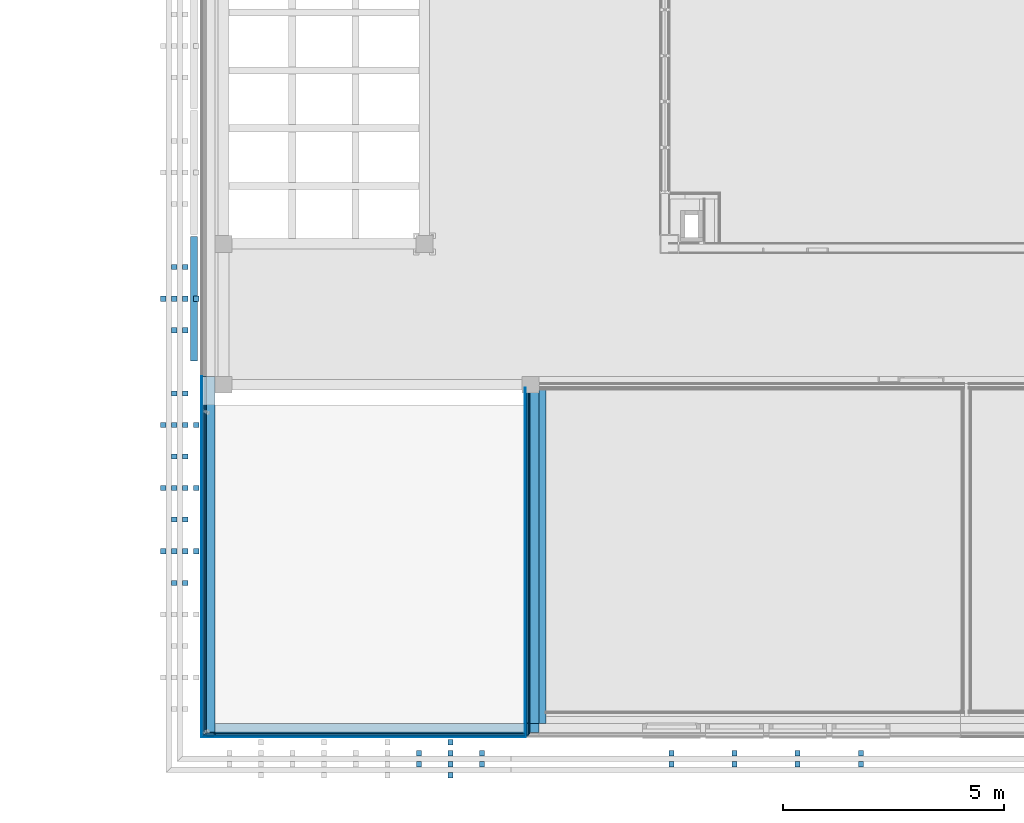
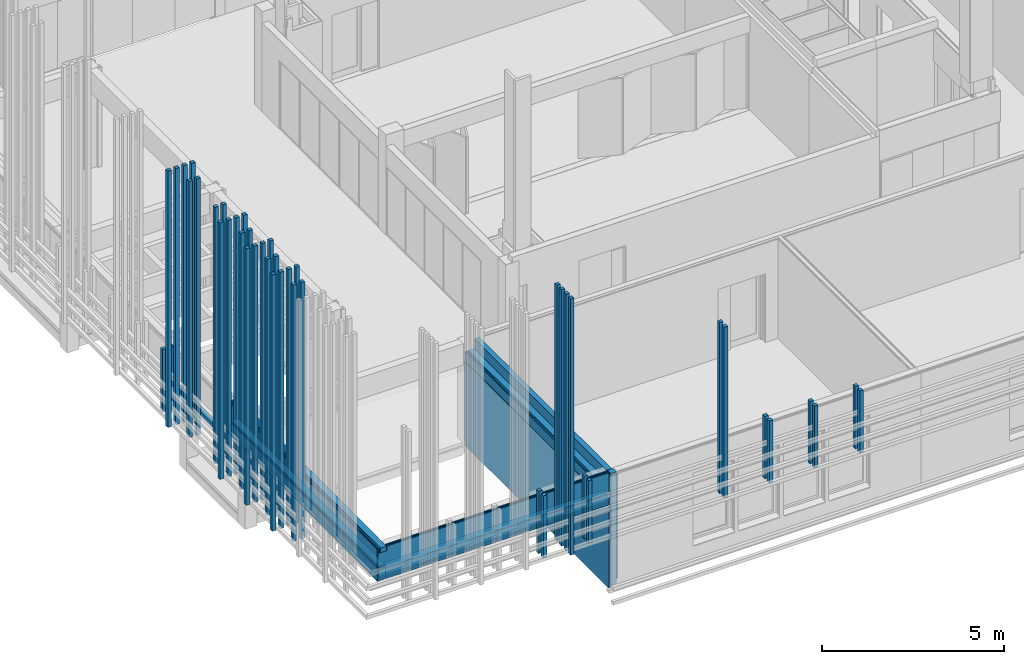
# One storey, part 71 of 139: 21 building element parts, 18 discrete accessories, 3 elements without a shape of their own.
"""IFC2X3 building model written with IfcOpenShell, lengths in millimetres."""

import ifcopenshell
import ifcopenshell.guid

model = None  # the IFC model being written
_history = None  # IfcOwnerHistory: only IFC2X3 demands one
_inside = {}  # id of a spatial element -> (the spatial element, [elements in it])
_under = {}  # id of a project, library or spatial element -> (it, [spatial elements below it])
_declared = {}  # id of a project -> (the project, [libraries it declares])
_typed = {}  # id of a type object -> (the type object, [elements of that type])
_made_of = {}  # id of a material, layer set ... -> (it, [elements and type objects made of it])


def new_model(schema):
    """Start an empty IFC model of exactly this schema.

    Asked for "IFC4X3", IfcOpenShell would pick the latest addendum, in which some entities
    have other attributes; the version numbers below select the first issue.
    IFC2X3 requires an IfcOwnerHistory on every rooted entity: one is made here for all.
    """
    global model, _history
    if schema == "IFC4X3":
        model = ifcopenshell.file(schema_version=(4, 3, 0, 0))
    else:
        model = ifcopenshell.file(schema=schema)
    _inside.clear()
    _under.clear()
    _declared.clear()
    _typed.clear()
    _made_of.clear()
    _history = None
    if model.schema == "IFC2X3":
        org = make("IfcOrganization", Name="unknown")
        user = make(
            "IfcPersonAndOrganization",
            ThePerson=make("IfcPerson", FamilyName="unknown"),
            TheOrganization=org,
        )
        app = make(
            "IfcApplication",
            ApplicationDeveloper=org,
            Version="unknown",
            ApplicationFullName="unknown",
            ApplicationIdentifier="unknown",
        )
        _history = make(
            "IfcOwnerHistory",
            OwningUser=user,
            OwningApplication=app,
            ChangeAction="ADDED",
            CreationDate=0,
        )
    return model


def make(cls, **values):
    """One entity of the class cls with the attributes given. An attribute that is None is left unset."""
    return model.create_entity(
        cls, **{name: value for name, value in values.items() if value is not None}
    )


def entity(cls, *values):
    """Any entity or typed value of the class cls, its attributes in the order of the schema. None: left unset."""
    e = model.create_entity(cls)
    for i, value in enumerate(values):
        if value is not None:
            e[i] = value
    return e


def rooted(cls, **values):
    """An entity with a GlobalId (a new one), such as an element, a storey or a relation."""
    return make(cls, GlobalId=ifcopenshell.guid.new(), OwnerHistory=_history, **values)


def si_unit(unit_type, name, prefix=None):
    """IfcSIUnit, for example si_unit("LENGTHUNIT", "METRE", prefix="MILLI")."""
    return make("IfcSIUnit", UnitType=unit_type, Prefix=prefix, Name=name)


def converted_unit(unit_type, name, factor, base, dimensions=None, offset=None):
    """IfcConversionBasedUnit, such as the inch: factor (a typed value) times the base unit."""
    return make(
        "IfcConversionBasedUnit"
        if offset is None
        else "IfcConversionBasedUnitWithOffset",
        ConversionOffset=offset,
        Dimensions=None
        if dimensions is None
        else entity("IfcDimensionalExponents", *dimensions),
        UnitType=unit_type,
        Name=name,
        ConversionFactor=make(
            "IfcMeasureWithUnit", ValueComponent=factor, UnitComponent=base
        ),
    )


def derived_unit(unit_type, elements):
    """IfcDerivedUnit: a product of units, each with its exponent."""
    return make(
        "IfcDerivedUnit",
        Elements=[
            make("IfcDerivedUnitElement", Unit=unit, Exponent=power)
            for unit, power in elements
        ],
        UnitType=unit_type,
    )


def money_unit(currency):
    """IfcMonetaryUnit."""
    return make("IfcMonetaryUnit", Currency=currency)


def assignment(units):
    """IfcUnitAssignment: the units of a project."""
    return None if units is None else make("IfcUnitAssignment", Units=units)


def point(xyz):
    """IfcCartesianPoint."""
    return None if xyz is None else make("IfcCartesianPoint", Coordinates=xyz)


def direction(xyz):
    """IfcDirection."""
    return None if xyz is None else make("IfcDirection", DirectionRatios=xyz)


def frame(location, z_axis=None, x_axis=None):
    """IfcAxis2Placement3D, a coordinate frame: its origin and axes. An axis left out is left unset."""
    return make(
        "IfcAxis2Placement3D",
        Location=point(location),
        Axis=direction(z_axis),
        RefDirection=direction(x_axis),
    )


def origin_with_axes():
    """The frame at (0, 0, 0) with the z axis (0, 0, 1) and the x axis (1, 0, 0) written out."""
    return frame((0.0, 0.0, 0.0), z_axis=(0.0, 0.0, 1.0), x_axis=(1.0, 0.0, 0.0))


def place(relative_to, where):
    """IfcLocalPlacement: puts the frame where relative to a parent placement (None: the world)."""
    return make(
        "IfcLocalPlacement", PlacementRelTo=relative_to, RelativePlacement=where
    )


def context(
    kind, dimensions, precision=None, world=None, true_north=None, identifier=None
):
    """IfcGeometricRepresentationContext, for example the 3D "Model" context."""
    return make(
        "IfcGeometricRepresentationContext",
        ContextIdentifier=identifier,
        ContextType=kind,
        CoordinateSpaceDimension=dimensions,
        Precision=precision,
        WorldCoordinateSystem=world,
        TrueNorth=true_north,
    )


def subcontext(parent, identifier, kind, view, scale=None):
    """IfcGeometricRepresentationSubContext, for example "Body" below "Model"."""
    return make(
        "IfcGeometricRepresentationSubContext",
        ContextIdentifier=identifier,
        ContextType=kind,
        ParentContext=parent,
        TargetScale=scale,
        TargetView=view,
    )


def project(units=None, contexts=None):
    """IfcProject with its units and contexts."""
    return rooted(
        "IfcProject",
        Name="project",
        RepresentationContexts=contexts,
        UnitsInContext=assignment(units),
    )


def spatial(cls, under=None, at=None, **own):
    """A site, building, storey or space (cls), placed at a placement, below another one or the project."""
    s = rooted(cls, ObjectPlacement=at, **own)
    if under is not None:
        _under.setdefault(under.id(), (under, []))[1].append(s)
    return s


def faces_of(points, faces, orient=None, outer=None):
    """IfcFace entities. A face is a list of loops; a loop is a list of indices into points, from 0.

    orient and outer hold one flag for each loop. By default every Orientation is true, the
    first loop of a face is its IfcFaceOuterBound and the others are IfcFaceBound.
    """
    made = []
    for i, loops in enumerate(faces):
        bounds = []
        for j, loop in enumerate(loops):
            is_outer = j == 0 if outer is None else outer[i][j]
            bounds.append(
                make(
                    "IfcFaceOuterBound" if is_outer else "IfcFaceBound",
                    Bound=make("IfcPolyLoop", Polygon=[points[k] for k in loop]),
                    Orientation=True if orient is None else orient[i][j],
                )
            )
        made.append(make("IfcFace", Bounds=bounds))
    return made


def faceted_brep(points, faces, orient=None, outer=None, voids=None):
    """IfcFacetedBrep: a solid bounded by flat faces; with voids (closed shells), ...WithVoids."""
    shared = [point(p) for p in points]
    hull = make("IfcClosedShell", CfsFaces=faces_of(shared, faces, orient, outer))
    if voids is None:
        return make("IfcFacetedBrep", Outer=hull)
    return make(
        "IfcFacetedBrepWithVoids",
        Outer=hull,
        Voids=[
            make(cls, CfsFaces=faces_of(shared, fs, o, b)) for cls, fs, o, b in voids
        ],
    )


def shape(context_of_items, identifier, shape_type, items):
    """IfcShapeRepresentation: the items that make up one representation, for example the "Body"."""
    return make(
        "IfcShapeRepresentation",
        ContextOfItems=context_of_items,
        RepresentationIdentifier=identifier,
        RepresentationType=shape_type,
        Items=items,
    )


def material(Name=None, Category=None):
    """IfcMaterial."""
    return make("IfcMaterial", Name=Name, Category=Category)


def material_list(materials):
    """IfcMaterialList."""
    return make("IfcMaterialList", Materials=materials)


def made_of(thing, what):
    """Note that an element or type object is made of a material, layer set ...; save() writes the relation."""
    if what is not None:
        _made_of.setdefault(what.id(), (what, []))[1].append(thing)
    return thing


def type_object(cls, material=None, **own):
    """A type object (cls), such as IfcWallType, which elements share."""
    return made_of(rooted(cls, **own), material)


def element(
    cls,
    number,
    at=None,
    inside=None,
    cuts=None,
    type_object=None,
    material=None,
    context=None,
    identifier="Body",
    shape_type=None,
    held_by="IfcProductDefinitionShape",
    body=None,
    shapes=None,
    **own,
):
    """One element of the class cls, such as IfcWall. Its Tag is "e" and its number.

    at: its placement. inside: the storey or other place that contains it. cuts: it is an
    opening in that element (IfcRelVoidsElement). A single representation is given by context,
    identifier, shape_type and body (its items); several are given by shapes. held_by: the class
    of the entity that holds the representations. save() writes the other relations.
    """
    e = rooted(cls, Tag="e%d" % number, ObjectPlacement=at, **own)
    if body is not None:
        shapes = [shape(context, identifier, shape_type, body)]
    if shapes is not None:
        e.Representation = make(held_by, Representations=shapes)
    if inside is not None:
        _inside.setdefault(inside.id(), (inside, []))[1].append(e)
    if cuts is not None:
        rooted(
            "IfcRelVoidsElement", RelatingBuildingElement=cuts, RelatedOpeningElement=e
        )
    if type_object is not None:
        _typed.setdefault(type_object.id(), (type_object, []))[1].append(e)
    return made_of(e, material)


def aggregate(whole, parts):
    """IfcRelAggregates: a whole, such as a stair, and the parts it consists of."""
    return rooted("IfcRelAggregates", RelatingObject=whole, RelatedObjects=parts)


def save(model, path):
    """Write the relations noted so far, then the file.

    IfcRelAggregates (storeys below a building ...), IfcRelContainedInSpatialStructure (elements
    in a storey), IfcRelDefinesByType, IfcRelAssociatesMaterial and IfcRelDeclares: one each for
    every whole, place, type object, material and project.
    """
    for whole, parts in _under.values():
        aggregate(whole, parts)
    for where, things in _inside.values():
        rooted(
            "IfcRelContainedInSpatialStructure",
            RelatedElements=things,
            RelatingStructure=where,
        )
    for kind, things in _typed.values():
        rooted("IfcRelDefinesByType", RelatedObjects=things, RelatingType=kind)
    for what, things in _made_of.values():
        rooted("IfcRelAssociatesMaterial", RelatedObjects=things, RelatingMaterial=what)
    for by, libraries in _declared.values():
        rooted("IfcRelDeclares", RelatingContext=by, RelatedDefinitions=libraries)
    model.write(path)


model = new_model("IFC2X3")

# Units and contexts
model_context = context("Model", 3, precision=0.01, world=origin_with_axes(), true_north=direction((0.0, 1.0)))
body_context = subcontext(model_context, "Body", "Model", "MODEL_VIEW")
ifc_project = project(units=[si_unit("LENGTHUNIT", "METRE", prefix="MILLI"), si_unit("AREAUNIT", "SQUARE_METRE"), si_unit("VOLUMEUNIT", "CUBIC_METRE"), converted_unit("PLANEANGLEUNIT", "DEGREE", entity("IfcPlaneAngleMeasure", 0.0174532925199), si_unit("PLANEANGLEUNIT", "RADIAN"), dimensions=[0, 0, 0, 0, 0, 0, 0]), money_unit("EUR"), converted_unit("TIMEUNIT", "Year", entity("IfcTimeMeasure", 31556926.0), si_unit("TIMEUNIT", "SECOND"), dimensions=[0, 0, 1, 0, 0, 0, 0]), si_unit("MASSUNIT", "GRAM", prefix="KILO"), si_unit("THERMODYNAMICTEMPERATUREUNIT", "DEGREE_CELSIUS"), si_unit("LUMINOUSINTENSITYUNIT", "LUMEN"), si_unit("ENERGYUNIT", "JOULE", prefix="MEGA"), derived_unit("THERMALCONDUCTANCEUNIT", [(si_unit("POWERUNIT", "WATT"), 1), (si_unit("LENGTHUNIT", "METRE"), -1), (si_unit("THERMODYNAMICTEMPERATUREUNIT", "KELVIN"), -1)]), derived_unit("SPECIFICHEATCAPACITYUNIT", [(si_unit("ENERGYUNIT", "JOULE"), 1), (si_unit("MASSUNIT", "GRAM", prefix="KILO"), -1), (si_unit("THERMODYNAMICTEMPERATUREUNIT", "KELVIN"), -1)]), derived_unit("MASSDENSITYUNIT", [(si_unit("MASSUNIT", "GRAM", prefix="KILO"), 1), (si_unit("VOLUMEUNIT", "CUBIC_METRE"), -1)])], contexts=[model_context])

# Site, building, storey
site_placement = place(None, origin_with_axes())
site = spatial("IfcSite", under=ifc_project, at=site_placement, Name="Kolde pst 67a", CompositionType="ELEMENT")
building_placement = place(site_placement, origin_with_axes())
building = spatial("IfcBuilding", under=site, at=building_placement, Name="Riigigümnaasium", CompositionType="ELEMENT")
storey_placement = place(building_placement, frame((0.0, 0.0, 4600.0), z_axis=(0.0, 0.0, 1.0), x_axis=(1.0, 0.0, 0.0)))
storey = spatial("IfcBuildingStorey", under=building, at=storey_placement, Name="2. korrus", CompositionType="ELEMENT", Elevation=4600.0)

# Discrete accessories
ifc_material_1 = material(Name="_VÄLISVIIMISTLUS - sõrmjätkatud puitprussid 120x115mm, liitekohad vähemärgatavad, Platowood sõrmjätkatud kuusk või samaväärne; eeltöödeldud tuletõkkevõõbaga, tuletundlikkus B-s1, d0, Woodsafe Exterior WFX™ või samaväärne; kinnitused vastavalt EK osale")
ifc_material_list_1 = material_list([ifc_material_1, ifc_material_1, ifc_material_1, ifc_material_1])
discrete_accessory_type_1 = type_object("IfcDiscreteAccessoryType", Name="120 4-ne vertikaalne 870 x 115")
discrete_accessory_1_placement = place(storey_placement, frame((53382.5232021, -312.0, 2150.0), z_axis=(0.0, 0.0, 1.0), x_axis=(0.0, -1.0, 0.0)))
element("IfcDiscreteAccessory", 1, at=discrete_accessory_1_placement, inside=storey, type_object=discrete_accessory_type_1, material=ifc_material_list_1, Name="Päikesevarjestus", context=body_context, shape_type="Brep", body=[
    faceted_brep([(133.0, 45.0, 0.0), (13.0, 45.0, 0.0), (13.0, 45.0, 8580.0), (133.0, 45.0, 8580.0), (133.0, -70.0, 0.0), (13.0, -70.0, 0.0), (13.0, -70.0, 8580.0), (133.0, -70.0, 8580.0)], [[[0, 1, 2, 3]], [[0, 4, 5, 1]], [[1, 5, 6, 2]], [[3, 2, 6, 7]], [[4, 0, 3, 7]], [[5, 4, 7, 6]]]),
    faceted_brep([(383.0, 45.0, 0.0), (263.0, 45.0, 0.0), (263.0, 45.0, 8580.0), (383.0, 45.0, 8580.0), (383.0, -70.0, 0.0), (263.0, -70.0, 0.0), (263.0, -70.0, 8580.0), (383.0, -70.0, 8580.0)], [[[0, 1, 2, 3]], [[0, 4, 5, 1]], [[1, 5, 6, 2]], [[3, 2, 6, 7]], [[4, 0, 3, 7]], [[5, 4, 7, 6]]]),
    faceted_brep([(633.0, 45.0, 0.0), (513.0, 45.0, 0.0), (513.0, 45.0, 8580.0), (633.0, 45.0, 8580.0), (633.0, -70.0, 0.0), (513.0, -70.0, 0.0), (513.0, -70.0, 8580.0), (633.0, -70.0, 8580.0)], [[[0, 1, 2, 3]], [[0, 4, 5, 1]], [[1, 5, 6, 2]], [[3, 2, 6, 7]], [[4, 0, 3, 7]], [[5, 4, 7, 6]]]),
    faceted_brep([(883.0, 45.0, 0.0), (763.0, 45.0, 0.0), (763.0, 45.0, 8580.0), (883.0, 45.0, 8580.0), (883.0, -70.0, 0.0), (763.0, -70.0, 0.0), (763.0, -70.0, 8580.0), (883.0, -70.0, 8580.0)], [[[0, 1, 2, 3]], [[0, 4, 5, 1]], [[1, 5, 6, 2]], [[3, 2, 6, 7]], [[4, 0, 3, 7]], [[5, 4, 7, 6]]]),
])
discrete_accessory_2_placement = place(storey_placement, frame((47687.9900449, 9646.95998846, 2150.0), z_axis=(0.0, 0.0, 1.0), x_axis=(-0.999999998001, -6.32316306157e-05, 0.0)))
element("IfcDiscreteAccessory", 2, at=discrete_accessory_2_placement, inside=storey, type_object=discrete_accessory_type_1, material=ifc_material_list_1, Name="Päikesevarjestus", context=body_context, shape_type="Brep", body=[
    faceted_brep([(47.9927283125, -70.0, 0.0), (47.9927283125, -70.0, 519.999664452), (47.9927283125, -70.0, 669.999664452), (133.0, -70.0, 669.999664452), (133.0, -70.0, 8580.0), (13.0, -70.0, 8580.0), (13.0, -70.0, 0.0), (47.99999995, 45.0, 519.999664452), (47.99999995, 45.0, 0.0), (47.99999995, 45.0, 669.999664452), (133.0, 45.0, 669.999664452), (133.0, 45.0, 8580.0), (13.0, 45.0, 8580.0), (13.0, 45.0, 0.0)], [[[0, 1, 2, 3, 4, 5, 6]], [[7, 1, 0, 8]], [[1, 7, 9, 2]], [[10, 3, 2, 9]], [[4, 3, 10, 11]], [[5, 4, 11, 12]], [[5, 12, 13, 6]], [[8, 0, 6, 13]], [[7, 8, 13, 12, 11, 10, 9]]]),
    faceted_brep([(383.0, 45.0, 0.0), (263.0, 45.0, 0.0), (263.0, 45.0, 8580.0), (383.0, 45.0, 8580.0), (383.0, -70.0, 0.0), (263.0, -70.0, 0.0), (263.0, -70.0, 8580.0), (383.0, -70.0, 8580.0)], [[[0, 1, 2, 3]], [[0, 4, 5, 1]], [[1, 5, 6, 2]], [[3, 2, 6, 7]], [[4, 0, 3, 7]], [[5, 4, 7, 6]]]),
    faceted_brep([(633.0, 45.0, 0.0), (513.0, 45.0, 0.0), (513.0, 45.0, 8580.0), (633.0, 45.0, 8580.0), (633.0, -70.0, 0.0), (513.0, -70.0, 0.0), (513.0, -70.0, 8580.0), (633.0, -70.0, 8580.0)], [[[0, 1, 2, 3]], [[0, 4, 5, 1]], [[1, 5, 6, 2]], [[3, 2, 6, 7]], [[4, 0, 3, 7]], [[5, 4, 7, 6]]]),
    faceted_brep([(883.0, 45.0, 0.0), (763.0, 45.0, 0.0), (763.0, 45.0, 8580.0), (883.0, 45.0, 8580.0), (883.0, -70.0, 0.0), (763.0, -70.0, 0.0), (763.0, -70.0, 8580.0), (883.0, -70.0, 8580.0)], [[[0, 1, 2, 3]], [[0, 4, 5, 1]], [[1, 5, 6, 2]], [[3, 2, 6, 7]], [[4, 0, 3, 7]], [[5, 4, 7, 6]]]),
])
for number, where, z_axis, x_axis in (
    (3, (47687.9900449, 3927.45041161, 2150.0), (0.0, 0.0, 1.0), (-0.999999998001, -6.3231630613e-05, 0.0)),
    (4, (47687.9824571, 5357.45041124, 2150.0), (0.0, 0.0, 1.0), (-0.999999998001, -6.3231630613e-05, 0.0)),
    (5, (47687.9900449, 6787.45041163, 2150.0), (0.0, 0.0, 1.0), (-0.999999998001, -6.3231630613e-05, 0.0)),
):
    element("IfcDiscreteAccessory", number, at=place(storey_placement, frame(where, z_axis=z_axis, x_axis=x_axis)), inside=storey, type_object=discrete_accessory_type_1, material=ifc_material_list_1, Name="Päikesevarjestus", context=body_context, shape_type="Brep", body=[
        faceted_brep([(133.0, 45.0, 0.0), (13.0, 45.0, 0.0), (13.0, 45.0, 8580.0), (133.0, 45.0, 8580.0), (133.0, -70.0, 0.0), (13.0, -70.0, 0.0), (13.0, -70.0, 8580.0), (133.0, -70.0, 8580.0)], [[[0, 1, 2, 3]], [[0, 4, 5, 1]], [[1, 5, 6, 2]], [[3, 2, 6, 7]], [[4, 0, 3, 7]], [[5, 4, 7, 6]]]),
        faceted_brep([(383.0, 45.0, 0.0), (263.0, 45.0, 0.0), (263.0, 45.0, 8580.0), (383.0, 45.0, 8580.0), (383.0, -70.0, 0.0), (263.0, -70.0, 0.0), (263.0, -70.0, 8580.0), (383.0, -70.0, 8580.0)], [[[0, 1, 2, 3]], [[0, 4, 5, 1]], [[1, 5, 6, 2]], [[3, 2, 6, 7]], [[4, 0, 3, 7]], [[5, 4, 7, 6]]]),
        faceted_brep([(633.0, 45.0, 0.0), (513.0, 45.0, 0.0), (513.0, 45.0, 8580.0), (633.0, 45.0, 8580.0), (633.0, -70.0, 0.0), (513.0, -70.0, 0.0), (513.0, -70.0, 8580.0), (633.0, -70.0, 8580.0)], [[[0, 1, 2, 3]], [[0, 4, 5, 1]], [[1, 5, 6, 2]], [[3, 2, 6, 7]], [[4, 0, 3, 7]], [[5, 4, 7, 6]]]),
        faceted_brep([(883.0, 45.0, 0.0), (763.0, 45.0, 0.0), (763.0, 45.0, 8580.0), (883.0, 45.0, 8580.0), (883.0, -70.0, 0.0), (763.0, -70.0, 0.0), (763.0, -70.0, 8580.0), (883.0, -70.0, 8580.0)], [[[0, 1, 2, 3]], [[0, 4, 5, 1]], [[1, 5, 6, 2]], [[3, 2, 6, 7]], [[4, 0, 3, 7]], [[5, 4, 7, 6]]]),
    ])
ifc_material_list_2 = material_list([ifc_material_1, ifc_material_1])
discrete_accessory_type_2 = type_object("IfcDiscreteAccessoryType", Name="1+paiksekaitse 3 370 x 115")
discrete_accessory_3_placement = place(storey_placement, frame((58434.1149581, -1292.00777448, 2150.0), z_axis=(0.0, 0.0, 1.0), x_axis=(0.0, 1.0, 0.0)))
element("IfcDiscreteAccessory", 6, at=discrete_accessory_3_placement, inside=storey, type_object=discrete_accessory_type_2, material=ifc_material_list_2, Name="Päikesevarjestus", context=body_context, shape_type="Brep", body=[
    faceted_brep([(467.0, 117.5, 0.0), (347.0, 117.5, 0.0), (347.0, 117.5, 5727.5), (467.0, 117.5, 5727.5), (467.0, 2.5, 0.0), (347.0, 2.5, 0.0), (347.0, 2.5, 5727.5), (467.0, 2.5, 5727.5)], [[[0, 1, 2, 3]], [[0, 4, 5, 1]], [[1, 5, 6, 2]], [[3, 2, 6, 7]], [[4, 0, 3, 7]], [[5, 4, 7, 6]]]),
    faceted_brep([(717.0, 117.5, 0.0), (597.0, 117.5, 0.0), (597.0, 117.5, 5727.5), (717.0, 117.5, 5727.5), (717.0, 2.5, 0.0), (597.0, 2.5, 0.0), (597.0, 2.5, 5727.5), (717.0, 2.5, 5727.5)], [[[0, 1, 2, 3]], [[0, 4, 5, 1]], [[1, 5, 6, 2]], [[3, 2, 6, 7]], [[4, 0, 3, 7]], [[5, 4, 7, 6]]]),
])
for number, where, z_axis, x_axis in (
    (7, (59864.1377201, -1292.00007473, 2150.0), (0.0, 0.0, 1.0), (0.0, 1.0, 0.0)),
    (8, (54145.0231995, -1292.00007473, 2150.0), (0.0, 0.0, 1.0), (0.0, 1.0, 0.0)),
    (9, (61294.1376763, -1292.00007473, 2150.0), (0.0, 0.0, 1.0), (0.0, 1.0, 0.0)),
    (10, (62725.0447932, -1292.00800125, 2150.0), (0.0, 0.0, 1.0), (0.0, 1.0, 0.0)),
    (11, (52715.0232497, -1292.00007473, 2150.0), (0.0, 0.0, 1.0), (0.0, 1.0, 0.0)),
):
    element("IfcDiscreteAccessory", number, at=place(storey_placement, frame(where, z_axis=z_axis, x_axis=x_axis)), inside=storey, type_object=discrete_accessory_type_2, material=ifc_material_list_2, Name="Päikesevarjestus", context=body_context, shape_type="Brep", body=[
        faceted_brep([(467.0, 117.5, 0.0), (347.0, 117.5, 0.0), (347.0, 117.5, 2090.0), (467.0, 117.5, 2090.0), (467.0, 2.5, 0.0), (347.0, 2.5, 0.0), (347.0, 2.5, 2090.0), (467.0, 2.5, 2090.0)], [[[0, 1, 2, 3]], [[0, 4, 5, 1]], [[1, 5, 6, 2]], [[3, 2, 6, 7]], [[4, 0, 3, 7]], [[5, 4, 7, 6]]]),
        faceted_brep([(717.0, 117.5, 0.0), (597.0, 117.5, 0.0), (597.0, 117.5, 2090.0), (717.0, 117.5, 2090.0), (717.0, 2.5, 0.0), (597.0, 2.5, 0.0), (597.0, 2.5, 2090.0), (717.0, 2.5, 2090.0)], [[[0, 1, 2, 3]], [[0, 4, 5, 1]], [[1, 5, 6, 2]], [[3, 2, 6, 7]], [[4, 0, 3, 7]], [[5, 4, 7, 6]]]),
    ])
for number, where, z_axis, x_axis in (
    (12, (46707.9854612, 7454.91924005, 2150.0), (0.0, 0.0, 1.0), (1.0, 0.0, 0.0)),
    (13, (46707.9854612, 6024.91924005, 2150.0), (0.0, 0.0, 1.0), (1.0, 0.0, 0.0)),
    (14, (46707.9854612, 4594.91924005, 2150.0), (0.0, 0.0, 1.0), (1.0, 0.0, 0.0)),
    (15, (46707.9854612, 3164.91924005, 2150.0), (0.0, 0.0, 1.0), (1.0, 0.0, 0.0)),
):
    element("IfcDiscreteAccessory", number, at=place(storey_placement, frame(where, z_axis=z_axis, x_axis=x_axis)), inside=storey, type_object=discrete_accessory_type_2, material=ifc_material_list_2, Name="Päikesevarjestus", context=body_context, shape_type="Brep", body=[
        faceted_brep([(467.0, 117.5, 0.0), (347.0, 117.5, 0.0), (347.0, 117.5, 8580.0), (467.0, 117.5, 8580.0), (467.0, 2.5, 0.0), (347.0, 2.5, 0.0), (347.0, 2.5, 8580.0), (467.0, 2.5, 8580.0)], [[[0, 1, 2, 3]], [[0, 4, 5, 1]], [[1, 5, 6, 2]], [[3, 2, 6, 7]], [[4, 0, 3, 7]], [[5, 4, 7, 6]]]),
        faceted_brep([(717.0, 117.5, 0.0), (597.0, 117.5, 0.0), (597.0, 117.5, 8580.0), (717.0, 117.5, 8580.0), (717.0, 2.5, 0.0), (597.0, 2.5, 0.0), (597.0, 2.5, 8580.0), (717.0, 2.5, 8580.0)], [[[0, 1, 2, 3]], [[0, 4, 5, 1]], [[1, 5, 6, 2]], [[3, 2, 6, 7]], [[4, 0, 3, 7]], [[5, 4, 7, 6]]]),
    ])
discrete_accessory_4_placement = place(storey_placement, frame((46707.9854612, 10314.9192401, 2150.0), z_axis=(0.0, 0.0, 1.0), x_axis=(1.0, 0.0, 0.0)))
element("IfcDiscreteAccessory", 16, at=discrete_accessory_4_placement, inside=storey, type_object=discrete_accessory_type_2, material=ifc_material_list_2, Name="Päikesevarjestus", context=body_context, shape_type="Brep", body=[
    faceted_brep([(467.0, 117.5, 0.0), (347.0, 117.5, 0.0), (347.0, 117.5, 2090.0), (467.0, 117.5, 2090.0), (467.0, 2.5, 0.0), (347.0, 2.5, 0.0), (347.0, 2.5, 2090.0), (467.0, 2.5, 2090.0)], [[[0, 1, 2, 3]], [[0, 4, 5, 1]], [[1, 5, 6, 2]], [[3, 2, 6, 7]], [[4, 0, 3, 7]], [[5, 4, 7, 6]]]),
    faceted_brep([(717.0, 117.5, 0.0), (597.0, 117.5, 0.0), (597.0, 117.5, 2090.0), (717.0, 117.5, 2090.0), (717.0, 2.5, 0.0), (597.0, 2.5, 0.0), (597.0, 2.5, 2090.0), (717.0, 2.5, 2090.0)], [[[0, 1, 2, 3]], [[0, 4, 5, 1]], [[1, 5, 6, 2]], [[3, 2, 6, 7]], [[4, 0, 3, 7]], [[5, 4, 7, 6]]]),
])
discrete_accessory_5_placement = place(storey_placement, frame((46707.9854612, 8884.91924005, 2150.0), z_axis=(0.0, 0.0, 1.0), x_axis=(1.0, 0.0, 0.0)))
element("IfcDiscreteAccessory", 17, at=discrete_accessory_5_placement, inside=storey, type_object=discrete_accessory_type_2, material=ifc_material_list_2, Name="Päikesevarjestus", context=body_context, shape_type="Brep", body=[
    faceted_brep([(467.0, 117.5, 0.0), (347.0, 117.5, 0.0), (347.0, 117.5, 8580.0), (467.0, 117.5, 8580.0), (467.0, 2.5, 0.0), (347.0, 2.5, 0.0), (347.0, 2.5, 8580.0), (467.0, 2.5, 8580.0)], [[[0, 1, 2, 3]], [[0, 4, 5, 1]], [[1, 5, 6, 2]], [[3, 2, 6, 7]], [[4, 0, 3, 7]], [[5, 4, 7, 6]]]),
    faceted_brep([(717.0, 117.5, 0.0), (597.0, 117.5, 0.0), (597.0, 117.5, 8580.0), (717.0, 117.5, 8580.0), (717.0, 2.5, 0.0), (597.0, 2.5, 0.0), (597.0, 2.5, 8580.0), (717.0, 2.5, 8580.0)], [[[0, 1, 2, 3]], [[0, 4, 5, 1]], [[1, 5, 6, 2]], [[3, 2, 6, 7]], [[4, 0, 3, 7]], [[5, 4, 7, 6]]]),
])
ifc_material_2 = material(Name="_METALL - alumiinium")
discrete_accessory_type_3 = type_object("IfcDiscreteAccessoryType", Name="_METALL - alumiinium 155 x 150")
discrete_accessory_6_placement = place(storey_placement, frame((47562.4928905, 8251.73323727, 2744.99966445), z_axis=(0.0, 0.0, 1.0), x_axis=(1.0, 0.0, 0.0)))
element("IfcDiscreteAccessory", 18, at=discrete_accessory_6_placement, inside=storey, type_object=discrete_accessory_type_3, material=ifc_material_2, Name="Kardinvarjestus", context=body_context, shape_type="Brep", body=[
    faceted_brep([(77.5, 0.0, 75.0), (77.5, 2814.9998744, 75.0), (-77.5, 2814.9998744, 75.0), (-77.5, 0.0, 75.0), (77.5, 0.0, -75.0), (77.5, 2814.9998744, -75.0), (-77.5, 2814.9998744, -75.0), (-77.5, 0.0, -75.0)], [[[0, 1, 2, 3]], [[4, 5, 1, 0]], [[2, 1, 5, 6]], [[3, 2, 6, 7]], [[4, 0, 3, 7]], [[7, 6, 5, 4]]]),
])

# Wall, building element parts
wall_type_1 = type_object("IfcWallType", Name="VS-CLT-16/1_soojust 200+laudis 472", PredefinedType="NOTDEFINED")
wall_1_placement = place(storey_placement, frame((55369.9826662, 7645.0, -130.0), z_axis=(0.0, 0.0, 1.0), x_axis=(3.74232799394e-06, -0.999999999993, 0.0)))
wall_1 = element("IfcWall", 19, at=wall_1_placement, inside=storey, type_object=wall_type_1, Name="Välissein")
ifc_material_3 = material(Name="_KANDETARIND - CLT ristkihtliimpuit vastavalt EK osale, CLT paigaldusvuugid teibitakse ROTHOBLAAS teibiga")
building_element_part_1_placement = place(wall_1_placement, origin_with_axes())
building_element_part_1 = element("IfcBuildingElementPart", 20, at=building_element_part_1_placement, material=ifc_material_3, Name="_KANDETARIND - CLT ristkihtliimpuit vastavalt EK osale, CLT paigaldusvuugid teibitakse ROTHOBLAAS teibiga", context=body_context, shape_type="Brep", body=[
    faceted_brep([(0.0, 160.0, 3450.0), (7605.00060258, 160.0, 3450.0), (7605.00059883, 160.0, 0.0), (0.0, 160.0, 0.0), (7605.00000244, -0.00101765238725, 3450.0), (-3.35997896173e-09, -0.00089815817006, 3450.0), (7605.00000005, 0.0, 0.0), (0.0, 0.0, 0.0)], [[[0, 1, 2, 3]], [[4, 1, 0, 5]], [[1, 4, 6, 2]], [[3, 2, 6, 7]], [[5, 0, 3, 7]], [[4, 5, 7, 6]]]),
])
ifc_material_4 = material(Name="_SOOJUSTUS - mineraalvill, λD<0,032 W/(mK), kuumtsingitud lehtteras termoroovidega, S350GD+Zn275 vastavalt EN10346, ISOVER EXTREME 32 200mm või samaväärne")
building_element_part_2_placement = place(wall_1_placement, origin_with_axes())
building_element_part_2 = element("IfcBuildingElementPart", 21, at=building_element_part_2_placement, material=ifc_material_4, Name="_SOOJUSTUS - mineraalvill, λD<0,032 W/(mK), kuumtsingitud lehtteras termoroovidega, S350GD+Zn275 vastavalt EN10346, ISOVER EXTREME 32 200mm või samaväärne", context=body_context, shape_type="Brep", body=[
    faceted_brep([(0.0, -200.0, 3120.0), (-3.35997896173e-09, -0.000898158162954, 3120.0), (0.0, 0.0, 0.0), (0.0, -200.0, 0.0), (7604.99999994, -0.029358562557, 3120.0), (7604.99925159, -200.0, 3120.0), (7604.99999994, -0.029358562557, 3730.0), (7805.00000005, 0.0, 0.0), (7804.99925159, -200.0, 0.0), (7804.99925283, -200.0, 3730.0), (7604.99925159, -200.0, 3730.0), (7805.00000127, -0.00110024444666, 3730.0)], [[[0, 1, 2, 3]], [[4, 1, 0, 5]], [[4, 6, 7, 2, 1]], [[8, 3, 2, 7]], [[5, 0, 3, 8, 9, 10]], [[4, 5, 10, 6]], [[7, 6, 11]], [[9, 8, 7, 11]], [[10, 9, 11, 6]]]),
])
ifc_material_5 = material(Name="_TUULETÕKE - tuuletõkkeplaat, soojuserijuhtivus λD<0,031 W/(mK), ISOVER RKL FACADE või samaväärne, liitekohad katta tihendusteibiga ISOVER FacadeTape või samaväärne")
building_element_part_3_placement = place(wall_1_placement, origin_with_axes())
building_element_part_3 = element("IfcBuildingElementPart", 22, at=building_element_part_3_placement, material=ifc_material_5, Name="_TUULETÕKE - tuuletõkkeplaat, soojuserijuhtivus λD<0,031 W/(mK), ISOVER RKL FACADE või samaväärne, liitekohad katta tihendusteibiga ISOVER FacadeTape või samaväärne", context=body_context, shape_type="Brep", body=[
    faceted_brep([(0.0, -200.0, 3120.0), (7604.99925159, -200.0, 3120.0), (7604.99925159, -200.0, 3750.0), (7804.99925221, -200.0, 3749.99999791), (7804.99925221, -200.0, 3730.0), (7834.99924964, -200.0, 3730.0), (7834.99925159, -200.0, 0.0), (0.0, -200.0, 0.0), (0.0, -230.0, 3120.0), (7604.99913932, -230.0, 3120.0), (7604.99913932, -230.0, 3750.0), (7804.99913995, -230.0, 3749.99999792), (7804.99913995, -230.0, 3730.0), (7834.99913737, -230.0, 3730.0), (7834.99913932, -230.0, 0.0), (0.0, -230.0, 0.0)], [[[0, 1, 2, 3, 4, 5, 6, 7]], [[1, 0, 8, 9]], [[2, 1, 9, 10]], [[2, 10, 11, 3]], [[12, 4, 3, 11]], [[13, 5, 4, 12]], [[6, 5, 13, 14]], [[7, 6, 14, 15]], [[8, 0, 7, 15]], [[9, 8, 15, 14, 13, 12, 11, 10]]]),
])
ifc_material_6 = material(Name="_KARKASS - puitroov 32x50mm vertikaalne, immutatud Driconi tulekaitsevahendiga või samaväärne, samm 600mm")
building_element_part_4_placement = place(wall_1_placement, origin_with_axes())
building_element_part_4 = element("IfcBuildingElementPart", 23, at=building_element_part_4_placement, material=ifc_material_6, Name="_KARKASS - puitroov 32x50mm vertikaalne, immutatud Driconi tulekaitsevahendiga või samaväärne, samm 600mm", context=body_context, shape_type="Brep", body=[
    faceted_brep([(0.0, -230.0, 3120.0), (7604.99913932, -230.0, 3120.0), (7604.99913932, -230.0, 3730.0), (7866.99913932, -230.0, 3730.0), (7866.99913932, -230.0, 0.0), (24.8501203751, -230.0, 0.0), (24.8501203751, -230.0, 127.0), (0.0, -230.0, 127.0), (0.0, -262.0, 3120.0), (7604.99901956, -262.0, 3120.0), (7604.99901956, -262.0, 3730.0), (7866.99901957, -262.0, 3730.0), (7866.99901957, -262.0, 0.0), (24.8507577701, -262.0, 0.0), (24.8507577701, -262.0, 127.0), (0.0, -262.0, 127.0)], [[[0, 1, 2, 3, 4, 5, 6, 7]], [[1, 0, 8, 9]], [[2, 1, 9, 10]], [[2, 10, 11, 3]], [[4, 3, 11, 12]], [[13, 5, 4, 12]], [[14, 6, 5, 13]], [[15, 7, 6, 14]], [[8, 0, 7, 15]], [[9, 8, 15, 14, 13, 12, 11, 10]]]),
])
ifc_material_7 = material(Name="_KARKASS - puitroov 32x50mm horisontaalne, immutatud Driconi tulekaitsevahendiga või samaväärne, samm 600mm")
building_element_part_5_placement = place(wall_1_placement, origin_with_axes())
building_element_part_5 = element("IfcBuildingElementPart", 24, at=building_element_part_5_placement, material=ifc_material_7, Name="_KARKASS - puitroov 32x50mm horisontaalne, immutatud Driconi tulekaitsevahendiga või samaväärne, samm 600mm", context=body_context, shape_type="Brep", body=[
    faceted_brep([(0.0, -262.0, 3120.0), (7604.99901956, -262.0, 3120.0), (7604.99901956, -262.0, 3730.0), (7898.99902327, -262.0, 3730.0), (7898.99901957, -262.0, 0.0), (24.8507577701, -262.0, 0.0), (24.8507577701, -262.0, 127.0), (0.0, -262.0, 127.0), (0.0, -294.0, 3120.0), (7604.99889981, -294.0, 3120.0), (7604.99889981, -294.0, 3730.0), (7898.99890353, -294.0, 3730.0), (7898.99889981, -294.0, 0.0), (24.8513951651, -294.0, 0.0), (24.8513951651, -294.0, 127.0), (0.0, -294.0, 127.0)], [[[0, 1, 2, 3, 4, 5, 6, 7]], [[1, 0, 8, 9]], [[2, 1, 9, 10]], [[2, 10, 11, 3]], [[4, 3, 11, 12]], [[13, 5, 4, 12]], [[14, 6, 5, 13]], [[15, 7, 6, 14]], [[8, 0, 7, 15]], [[9, 8, 15, 14, 13, 12, 11, 10]]]),
])
ifc_material_8 = material(Name="_VÄLISVIIMISTLUS - vertikaalne voodrilaud, Platowood P01 profiil 18x140mm, kuusk; eeltöödeldud tuletõkkega mõlemad küljed, B-s1, d0, Woodsafe Exterior WFX™ või samaväärne")
building_element_part_6_placement = place(wall_1_placement, origin_with_axes())
building_element_part_6 = element("IfcBuildingElementPart", 25, at=building_element_part_6_placement, material=ifc_material_8, Name="_VÄLISVIIMISTLUS - vertikaalne voodrilaud, Platowood P01 profiil 18x140mm, kuusk; eeltöödeldud tuletõkkega mõlemad küljed, B-s1, d0, Woodsafe Exterior WFX™ või samaväärne", context=body_context, shape_type="Brep", body=[
    faceted_brep([(0.0, -294.0, 2802.0), (7604.99889981, -294.0, 2802.0), (7604.99889981, -294.0, 3730.0), (7916.99889981, -294.0, 3730.0), (7916.99889981, -294.0, 0.0), (24.8513951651, -294.0, 0.0), (24.8513951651, -294.0, 127.0), (0.0, -294.0, 127.0), (0.0, -312.0, 2802.0), (7604.99883245, -312.0, 2802.0), (7604.99883245, -312.0, 3730.0), (7916.99883245, -312.0, 3730.0), (7916.99883245, -312.0, 0.0), (24.8517536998, -312.0, 0.0), (24.8517536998, -312.0, 127.0), (0.0, -312.0, 127.0)], [[[0, 1, 2, 3, 4, 5, 6, 7]], [[1, 0, 8, 9]], [[2, 1, 9, 10]], [[2, 10, 11, 3]], [[4, 3, 11, 12]], [[13, 5, 4, 12]], [[14, 6, 5, 13]], [[15, 7, 6, 14]], [[8, 0, 7, 15]], [[9, 8, 15, 14, 13, 12, 11, 10]]]),
])
aggregate(wall_1, [building_element_part_1, building_element_part_2, building_element_part_3, building_element_part_4, building_element_part_5, building_element_part_6])

wall_type_2 = type_object("IfcWallType", Name="Konsooli välisnurk 312 x 1078", PredefinedType="NOTDEFINED")
wall_2_placement = place(storey_placement, frame((48039.9854607, 7899.96194059, 3600.0), z_axis=(0.0, 0.0, 1.0), x_axis=(0.0, -1.0, 0.0)))
wall_2 = element("IfcWall", 26, at=wall_2_placement, inside=storey, type_object=wall_type_2, Name="Välissein")
ifc_material_9 = material(Name="_SOOJUSTUS - mineraalvill, λD<0,032 W/(mK), kuumtsingitud lehtteras termoroovidega, S350GD+Zn275 vastavalt EN10346, ISOVER EXTREME 32 100mm või samaväärne")
building_element_part_7_placement = place(wall_2_placement, origin_with_axes())
building_element_part_7 = element("IfcBuildingElementPart", 27, at=building_element_part_7_placement, material=ifc_material_9, Name="_SOOJUSTUS - mineraalvill, λD<0,032 W/(mK), kuumtsingitud lehtteras termoroovidega, S350GD+Zn275 vastavalt EN10346, ISOVER EXTREME 32 100mm või samaväärne", context=body_context, shape_type="Brep", body=[
    faceted_brep([(8059.9619406, -200.000002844, -530.000002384), (8059.9619406, 4.39364100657e-07, -530.000002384), (0.0, 4.39364100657e-07, -529.99999811), (0.0, -200.000002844, -529.99999811), (8059.9619406, 4.39364100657e-07, -579.999996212), (8059.9619406, -200.000002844, -579.999996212), (0.0, 4.39364100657e-07, -579.999996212), (0.0, -200.000002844, -579.999996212)], [[[0, 1, 2, 3]], [[4, 1, 0, 5]], [[1, 4, 6, 2]], [[7, 3, 2, 6]], [[5, 0, 3, 7]], [[4, 5, 7, 6]]]),
])
building_element_part_8_placement = place(wall_2_placement, origin_with_axes())
building_element_part_8 = element("IfcBuildingElementPart", 28, at=building_element_part_8_placement, material=ifc_material_5, Name="_TUULETÕKE - tuuletõkkeplaat, soojuserijuhtivus λD<0,031 W/(mK), ISOVER RKL FACADE või samaväärne, liitekohad katta tihendusteibiga ISOVER FacadeTape või samaväärne", context=body_context, shape_type="Brep", body=[
    faceted_brep([(8059.9619406, -200.000004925, -579.999996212), (8059.9619406, 4.39364100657e-07, -579.999996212), (0.0, 4.39364100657e-07, -579.999995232), (0.0, -200.000004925, -579.999995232), (8059.9619406, 4.39364100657e-07, -610.0), (8059.9619406, -200.000004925, -610.0), (0.0, 4.39364100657e-07, -610.0), (0.0, -200.000004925, -610.0)], [[[0, 1, 2, 3]], [[4, 1, 0, 5]], [[1, 4, 6, 2]], [[7, 3, 2, 6]], [[5, 0, 3, 7]], [[4, 5, 7, 6]]]),
])
building_element_part_9_placement = place(wall_2_placement, origin_with_axes())
building_element_part_9 = element("IfcBuildingElementPart", 29, at=building_element_part_9_placement, material=ifc_material_4, Name="_SOOJUSTUS - mineraalvill, λD<0,032 W/(mK), kuumtsingitud lehtteras termoroovidega, S350GD+Zn275 vastavalt EN10346, ISOVER EXTREME 32 200mm või samaväärne", context=body_context, shape_type="Brep", body=[
    faceted_brep([(8059.9619406, -20.0000035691, 0.0), (8059.9619406, 2.54132714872e-07, 0.0), (7699.96194259, 2.54132714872e-07, 0.0), (7699.96194259, -20.0000035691, 0.0), (8059.9619406, 2.54132714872e-07, -530.000002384), (8059.9619406, -200.00000511, 0.0), (8059.9619406, -200.00000511, -530.000002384), (0.0, 2.54132714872e-07, -530.000002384), (0.0, 2.54132714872e-07, 150.0), (7699.96194259, 0.0, 149.999997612), (7699.96194259, -20.0000035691, 150.0), (8171.96194059, -20.0000035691, 150.0), (8171.96192874, -20.0000035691, 0.0), (8171.96192865, -200.00000511, 0.0), (8171.96194059, -200.00000511, 150.000001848), (0.0, -200.00000511, 150.0), (0.0, -200.00000511, -530.000002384)], [[[0, 1, 2, 3]], [[4, 1, 0, 5, 6]], [[1, 4, 7, 8, 9, 2]], [[2, 9, 10, 3]], [[0, 3, 10, 11, 12]], [[5, 0, 12, 13]], [[5, 13, 14, 15, 16, 6]], [[4, 6, 16, 7]], [[15, 8, 7, 16]], [[11, 10, 9, 8, 15, 14]], [[13, 12, 11, 14]]]),
])
ifc_material_10 = material(Name="_ÕHK")
building_element_part_10_placement = place(wall_2_placement, origin_with_axes())
building_element_part_10 = element("IfcBuildingElementPart", 30, at=building_element_part_10_placement, material=ifc_material_10, Name="_ÕHK", context=body_context, shape_type="Brep", body=[
    faceted_brep([(8089.9619341, -230.000001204, -610.000006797), (8089.9619341, 6.55447252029e-07, -610.000006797), (0.0, 6.55447252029e-07, -610.000006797), (0.0, -230.000001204, -610.000006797), (8089.96193038, 6.55447252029e-07, -860.000006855), (8089.96193038, -229.999986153, -860.000006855), (0.0, 6.55447252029e-07, -860.000006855), (0.0, -229.999986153, -860.000006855)], [[[0, 1, 2, 3]], [[4, 1, 0, 5]], [[1, 4, 6, 2]], [[3, 2, 6, 7]], [[5, 0, 3, 7]], [[4, 5, 7, 6]]]),
])
building_element_part_11_placement = place(wall_2_placement, origin_with_axes())
building_element_part_11 = element("IfcBuildingElementPart", 31, at=building_element_part_11_placement, material=ifc_material_5, Name="_TUULETÕKE - tuuletõkkeplaat, soojuserijuhtivus λD<0,031 W/(mK), ISOVER RKL FACADE või samaväärne, liitekohad katta tihendusteibiga ISOVER FacadeTape või samaväärne", context=body_context, shape_type="Brep", body=[
    faceted_brep([(8089.96194373, -200.000000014, 0.0), (8089.9619341, -200.000000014, -610.000006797), (0.0, -200.000000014, -610.0), (0.0, -200.000000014, 150.0), (8171.96194059, -200.000000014, 150.000001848), (8171.96192865, -200.000000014, 0.0), (8089.96194373, -229.999997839, 0.0), (8089.9619341, -229.999997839, -610.000006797), (0.0, -229.999997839, -610.0), (0.0, -229.999997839, 150.0), (8171.96194059, -229.999997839, 150.000001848), (8171.96192864, -229.999997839, 0.0)], [[[0, 1, 2, 3, 4, 5]], [[0, 6, 7, 1]], [[1, 7, 8, 2]], [[8, 9, 3, 2]], [[9, 10, 4, 3]], [[11, 5, 4, 10]], [[6, 0, 5, 11]], [[6, 11, 10, 9, 8, 7]]]),
])
building_element_part_12_placement = place(wall_2_placement, origin_with_axes())
building_element_part_12 = element("IfcBuildingElementPart", 32, at=building_element_part_12_placement, material=ifc_material_6, Name="_KARKASS - puitroov 32x50mm vertikaalne, immutatud Driconi tulekaitsevahendiga või samaväärne, samm 600mm", context=body_context, shape_type="Brep", body=[
    faceted_brep([(8121.96193308, -229.999989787, 0.0), (8121.96193308, -229.999989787, -860.000006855), (0.0, -229.999989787, -860.000006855), (0.0, -230.000004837, 150.0), (8171.96194059, -230.000004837, 150.000001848), (8171.96192864, -230.000002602, 0.0), (8121.96193308, -261.999998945, 0.0), (8121.96193308, -261.999998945, -860.000006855), (0.0, -261.999998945, -860.000006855), (0.0, -261.999998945, 150.0), (8171.96194059, -261.999998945, 150.000001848), (8171.96192862, -261.999998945, 0.0)], [[[0, 1, 2, 3, 4, 5]], [[0, 6, 7, 1]], [[1, 7, 8, 2]], [[9, 3, 2, 8]], [[9, 10, 4, 3]], [[11, 5, 4, 10]], [[6, 0, 5, 11]], [[6, 11, 10, 9, 8, 7]]]),
])
building_element_part_13_placement = place(wall_2_placement, origin_with_axes())
building_element_part_13 = element("IfcBuildingElementPart", 33, at=building_element_part_13_placement, material=ifc_material_6, Name="_KARKASS - puitroov 32x50mm vertikaalne, immutatud Driconi tulekaitsevahendiga või samaväärne, samm 600mm", context=body_context, shape_type="Brep", body=[
    faceted_brep([(8153.96194807, -261.99999249, 0.0), (8153.96193449, -261.99999249, -860.000006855), (0.0, -261.99999249, -860.000006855), (0.0, -261.99999249, 150.0), (8171.96194059, -261.99999249, 150.000001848), (8171.96192862, -261.99999249, 0.0), (8153.96194808, -294.000007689, 0.0), (8153.96193449, -294.000007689, -860.000006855), (0.0, -294.000007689, -860.000006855), (0.0, -294.000007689, 150.0), (8171.96194059, -294.000007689, 150.000001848), (8171.96192861, -294.000007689, 0.0)], [[[0, 1, 2, 3, 4, 5]], [[0, 6, 7, 1]], [[1, 7, 8, 2]], [[8, 9, 3, 2]], [[9, 10, 4, 3]], [[11, 5, 4, 10]], [[0, 5, 11, 6]], [[6, 11, 10, 9, 8, 7]]]),
])
ifc_material_11 = material(Name="_KARKASS - kübarprofiil 50mm, samm 600mm, kuumtsingitud teras")
building_element_part_14_placement = place(wall_2_placement, origin_with_axes())
building_element_part_14 = element("IfcBuildingElementPart", 34, at=building_element_part_14_placement, material=ifc_material_11, Name="_KARKASS - kübarprofiil 50mm, samm 600mm, kuumtsingitud teras", context=body_context, shape_type="Brep", body=[
    faceted_brep([(8153.96193448, -293.99999997, -860.000006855), (8153.96193448, 6.19436946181e-07, -860.000006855), (0.0, 6.19436946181e-07, -860.0), (0.0, -293.99999997, -860.0), (8153.96193373, 6.55447252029e-07, -910.000081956), (8153.96193373, -293.99999997, -910.000081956), (8153.96193373, -284.000001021, -910.000081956), (0.0, 6.55447252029e-07, -910.0), (0.0, -284.000001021, -910.000087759), (0.0, -293.99999997, -910.0)], [[[0, 1, 2, 3]], [[4, 1, 0, 5, 6]], [[1, 4, 7, 2]], [[3, 2, 7, 8, 9]], [[5, 0, 3, 9]], [[6, 5, 9, 8]], [[4, 6, 8, 7]]]),
])
building_element_part_15_placement = place(wall_2_placement, origin_with_axes())
building_element_part_15 = element("IfcBuildingElementPart", 35, at=building_element_part_15_placement, material=ifc_material_8, Name="_VÄLISVIIMISTLUS - vertikaalne voodrilaud, Platowood P01 profiil 18x140mm, kuusk; eeltöödeldud tuletõkkega mõlemad küljed, B-s1, d0, Woodsafe Exterior WFX™ või samaväärne", context=body_context, shape_type="Brep", body=[
    faceted_brep([(8171.96194059, -294.000009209, 150.000001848), (8171.96194059, -311.999991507, 150.000001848), (8171.9619323, -311.999991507, -928.0), (8171.9619323, -293.999993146, -928.0), (8171.9619323, -293.999993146, -910.000001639), (0.0, -311.999991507, 150.0), (0.0, -294.000009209, 150.0), (0.0, -311.999991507, -928.0), (0.0, -293.999993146, -928.0), (0.0, -293.999993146, -910.000001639)], [[[0, 1, 2, 3, 4]], [[5, 1, 0, 6]], [[7, 2, 1, 5]], [[8, 3, 2, 7]], [[9, 4, 3, 8]], [[0, 4, 9, 6]], [[6, 9, 8, 7, 5]]]),
])
aggregate(wall_2, [building_element_part_7, building_element_part_8, building_element_part_9, building_element_part_10, building_element_part_11, building_element_part_12, building_element_part_13, building_element_part_14, building_element_part_15])

wall_3_placement = place(storey_placement, frame((48039.9854607, 40.0, 3600.0), z_axis=(0.0, 0.0, 1.0), x_axis=(1.0, 0.0, 0.0)))
wall_3 = element("IfcWall", 36, at=wall_3_placement, inside=storey, type_object=wall_type_2, Name="Välissein")
building_element_part_16_placement = place(wall_3_placement, origin_with_axes())
building_element_part_16 = element("IfcBuildingElementPart", 37, at=building_element_part_16_placement, material=ifc_material_10, Name="_ÕHK", context=body_context, shape_type="Brep", body=[
    faceted_brep([(6.55447252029e-07, 6.55449028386e-07, -860.000006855), (6.55447252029e-07, 6.55448140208e-07, -610.000006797), (7018.02683349, 6.55449472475e-07, -610.000006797), (7018.02683349, 6.55449028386e-07, -860.000006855), (6.55447252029e-07, -230.000001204, -610.000006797), (6.55447252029e-07, -229.999986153, -860.000006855), (7018.02683349, -230.000001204, -610.000006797), (7018.02683349, -229.999986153, -860.000006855)], [[[0, 1, 2, 3]], [[4, 1, 0, 5]], [[1, 4, 6, 2]], [[6, 7, 3, 2]], [[5, 0, 3, 7]], [[4, 5, 7, 6]]]),
])
building_element_part_17_placement = place(wall_3_placement, origin_with_axes())
building_element_part_17 = element("IfcBuildingElementPart", 38, at=building_element_part_17_placement, material=ifc_material_5, Name="_TUULETÕKE - tuuletõkkeplaat, soojuserijuhtivus λD<0,031 W/(mK), ISOVER RKL FACADE või samaväärne, liitekohad katta tihendusteibiga ISOVER FacadeTape või samaväärne", context=body_context, shape_type="Brep", body=[
    faceted_brep([(-200.000000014, -200.000000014, 0.0), (0.0, -200.000000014, 0.0), (0.0, -200.000000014, 149.999997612), (7018.02683349, -200.000000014, 150.0), (7018.02683349, -200.000000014, -610.0), (-200.000000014, -200.000000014, -610.0), (-200.000000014, -229.999997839, 0.0), (0.0, -229.999997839, 0.0), (0.0, -229.999997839, 149.999997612), (7018.02683349, -229.999997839, 150.0), (7018.02683349, -229.999997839, -610.0), (-200.000000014, -229.999997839, -610.0)], [[[0, 1, 2, 3, 4, 5]], [[0, 6, 7, 1]], [[7, 8, 2, 1]], [[3, 2, 8, 9]], [[10, 4, 3, 9]], [[11, 5, 4, 10]], [[6, 0, 5, 11]], [[6, 11, 10, 9, 8, 7]]]),
])
building_element_part_18_placement = place(wall_3_placement, origin_with_axes())
building_element_part_18 = element("IfcBuildingElementPart", 39, at=building_element_part_18_placement, material=ifc_material_6, Name="_KARKASS - puitroov 32x50mm vertikaalne, immutatud Driconi tulekaitsevahendiga või samaväärne, samm 600mm", context=body_context, shape_type="Brep", body=[
    faceted_brep([(-230.000002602, -230.00000359, 0.0), (0.0, -230.000004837, 0.0), (0.0, -230.000004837, 149.999997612), (7018.02683349, -230.000004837, 150.0), (7018.02683349, -229.999989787, -860.000006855), (-229.999989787, -229.999989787, -860.000006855), (-230.000002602, -261.999998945, 0.0), (0.0, -261.999998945, 0.0), (0.0, -261.999998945, 149.999997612), (7018.02683349, -261.999998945, 150.0), (7018.02683349, -261.999998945, -860.000006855), (-229.999989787, -261.999998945, -860.000006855)], [[[0, 1, 2, 3, 4, 5]], [[0, 6, 7, 1]], [[7, 8, 2, 1]], [[3, 2, 8, 9]], [[9, 10, 4, 3]], [[11, 5, 4, 10]], [[6, 0, 5, 11]], [[6, 11, 10, 9, 8, 7]]]),
])
building_element_part_19_placement = place(wall_3_placement, origin_with_axes())
building_element_part_19 = element("IfcBuildingElementPart", 40, at=building_element_part_19_placement, material=ifc_material_6, Name="_KARKASS - puitroov 32x50mm vertikaalne, immutatud Driconi tulekaitsevahendiga või samaväärne, samm 600mm", context=body_context, shape_type="Brep", body=[
    faceted_brep([(-261.99999249, -261.99999249, 0.0), (0.0, -261.99999249, 0.0), (0.0, -261.99999249, 149.999997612), (7018.02683349, -261.99999249, 150.0), (7018.02683349, -261.99999249, -860.000006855), (-261.99999249, -261.99999249, -860.000006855), (-261.99999249, -294.000007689, 0.0), (0.0, -294.000007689, 0.0), (0.0, -294.000007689, 149.999997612), (7018.02683349, -294.000007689, 150.0), (7018.02683349, -294.000007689, -860.000006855), (-261.99999249, -294.000007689, -860.000006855)], [[[0, 1, 2, 3, 4, 5]], [[0, 6, 7, 1]], [[7, 8, 2, 1]], [[3, 2, 8, 9]], [[10, 4, 3, 9]], [[11, 5, 4, 10]], [[6, 0, 5, 11]], [[6, 11, 10, 9, 8, 7]]]),
])
building_element_part_20_placement = place(wall_3_placement, origin_with_axes())
building_element_part_20 = element("IfcBuildingElementPart", 41, at=building_element_part_20_placement, material=ifc_material_11, Name="_KARKASS - kübarprofiil 50mm, samm 600mm, kuumtsingitud teras", context=body_context, shape_type="Brep", body=[
    faceted_brep([(7018.02683349, 6.55449028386e-07, -910.0), (6.55447252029e-07, 6.55449028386e-07, -910.0), (6.19436946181e-07, 6.19435169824e-07, -860.0), (7018.02683349, 6.19435613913e-07, -860.0), (7018.02683349, -284.000001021, -910.000087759), (6.55447252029e-07, -284.000001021, -910.0), (6.55447252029e-07, -293.99999997, -910.0), (6.19436946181e-07, -293.99999997, -860.0), (7018.02683349, -293.99999997, -860.0), (7018.02683349, -293.99999997, -910.0)], [[[0, 1, 2, 3]], [[4, 5, 1, 0]], [[6, 7, 2, 1, 5]], [[3, 2, 7, 8]], [[4, 0, 3, 8, 9]], [[9, 6, 5, 4]], [[8, 7, 6, 9]]]),
])
building_element_part_21_placement = place(wall_3_placement, origin_with_axes())
building_element_part_21 = element("IfcBuildingElementPart", 42, at=building_element_part_21_placement, material=ifc_material_8, Name="_VÄLISVIIMISTLUS - vertikaalne voodrilaud, Platowood P01 profiil 18x140mm, kuusk; eeltöödeldud tuletõkkega mõlemad küljed, B-s1, d0, Woodsafe Exterior WFX™ või samaväärne", context=body_context, shape_type="Brep", body=[
    faceted_brep([(-294.000006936, -294.000007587, 0.0), (0.0, -294.000009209, 0.0), (0.0, -294.000009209, 149.999997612), (7018.02683349, -294.000009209, 150.0), (7018.02683349, -293.999993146, -910.000001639), (-293.999993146, -293.999993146, -910.000081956), (-294.000006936, -311.999998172, 0.0), (0.0, -311.999988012, 0.0), (0.0, -311.999988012, 149.999997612), (7018.02683349, -311.999991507, 150.0), (7018.02683349, -311.999991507, -928.0), (7018.02683349, -293.999993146, -928.0), (-293.999993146, -293.999993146, -928.0), (-293.999993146, -311.999991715, -910.000081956), (-293.999993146, -311.999991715, -928.0)], [[[0, 1, 2, 3, 4, 5]], [[0, 6, 7, 1]], [[8, 2, 1, 7]], [[2, 8, 9, 3]], [[4, 3, 9, 10, 11]], [[11, 12, 5, 4]], [[6, 0, 5, 13]], [[6, 13, 14, 10, 9, 8, 7]], [[10, 14, 12, 11]], [[13, 5, 12, 14]]]),
])
aggregate(wall_3, [building_element_part_16, building_element_part_17, building_element_part_18, building_element_part_19, building_element_part_20, building_element_part_21])

save(model, "model.ifc")
